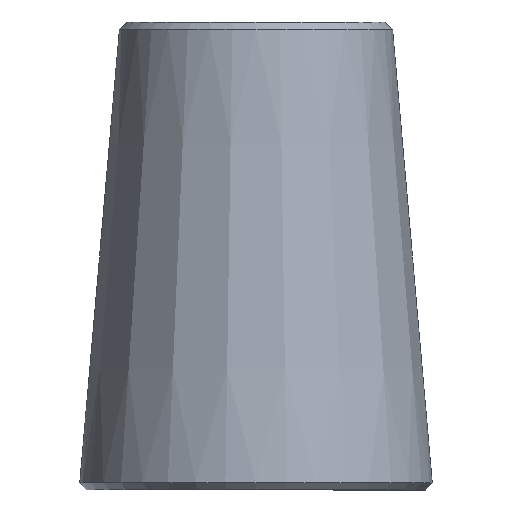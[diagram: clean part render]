
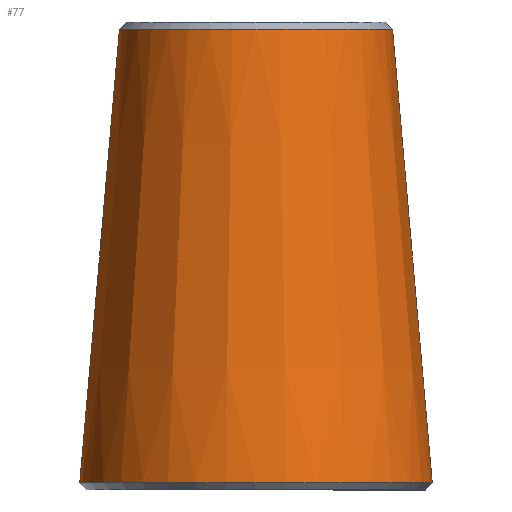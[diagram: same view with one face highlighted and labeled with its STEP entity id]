
A CAD part, left-side view. The second image highlights one B-rep face of the part: STEP entity #77.
In plain terms, the highlighted conical face has half-angle 5 degrees and reference radius 42.444 mm.
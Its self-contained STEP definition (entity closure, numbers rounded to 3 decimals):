
#20=FACE_BOUND('',#34,.T.);
#25=FACE_OUTER_BOUND('',#33,.T.);
#33=EDGE_LOOP('',(#63));
#34=EDGE_LOOP('',(#64));
#44=CIRCLE('',#87,47.826);
#45=CIRCLE('',#89,37.063);
#50=VERTEX_POINT('',#130);
#51=VERTEX_POINT('',#133);
#56=EDGE_CURVE('',#50,#50,#44,.T.);
#57=EDGE_CURVE('',#51,#51,#45,.T.);
#63=ORIENTED_EDGE('',*,*,#57,.F.);
#64=ORIENTED_EDGE('',*,*,#56,.F.);
#74=CONICAL_SURFACE('',#88,42.444,5.);
#77=ADVANCED_FACE('',(#25,#20),#74,.T.);
#87=AXIS2_PLACEMENT_3D('',#131,#104,#105);
#88=AXIS2_PLACEMENT_3D('',#132,#106,#107);
#89=AXIS2_PLACEMENT_3D('',#134,#108,#109);
#104=DIRECTION('center_axis',(0.,0.,
-1.));
#105=DIRECTION('ref_axis',(0.,1.,0.));
#106=DIRECTION('center_axis',(0.,0.,-1.));
#107=DIRECTION('ref_axis',(0.,-1.,0.));
#108=DIRECTION('center_axis',(0.,0.,
1.));
#109=DIRECTION('ref_axis',(0.,1.,0.));
#130=CARTESIAN_POINT('',(0.,-47.826,1.992));
#131=CARTESIAN_POINT('Origin',(0.,0.,1.992));
#132=CARTESIAN_POINT('Origin',(0.,0.,63.5));
#133=CARTESIAN_POINT('',(0.,-37.063,125.008));
#134=CARTESIAN_POINT('Origin',(0.,0.,
125.008));
